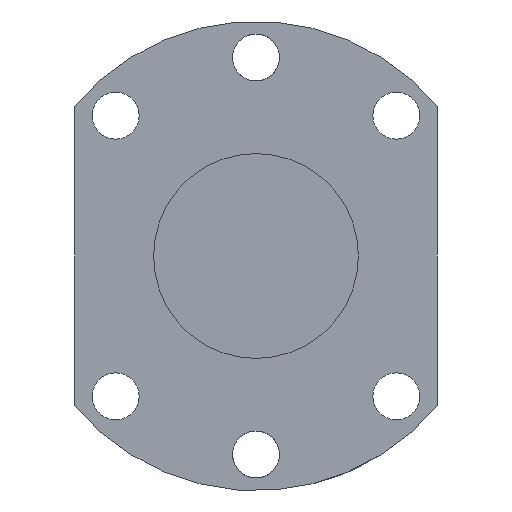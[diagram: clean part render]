
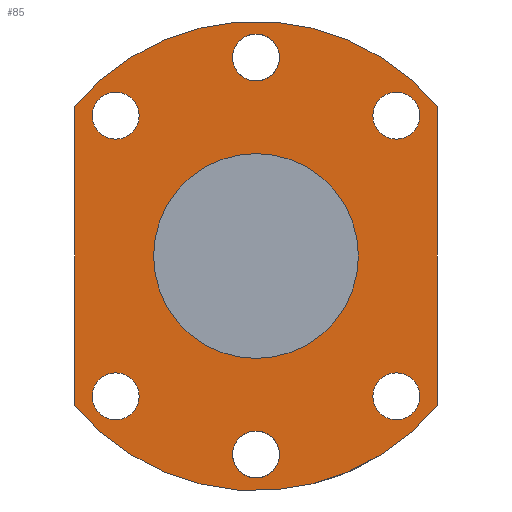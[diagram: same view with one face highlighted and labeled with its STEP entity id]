
A CAD part, front view. The second image highlights one B-rep face of the part: STEP entity #85.
In plain terms, the highlighted planar face has unit normal (0, -1, 0).
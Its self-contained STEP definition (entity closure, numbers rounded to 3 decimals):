
#30=LINE('',#556,#38);
#34=LINE('',#627,#42);
#38=VECTOR('',#451,1.);
#42=VECTOR('',#463,1.);
#69=PLANE('',#412);
#85=ADVANCED_FACE('',(#127,#128,#129,#130,#131,#132,#133,#134),#69,.F.);
#127=FACE_BOUND('',#181,.T.);
#128=FACE_BOUND('',#182,.T.);
#129=FACE_BOUND('',#183,.T.);
#130=FACE_BOUND('',#184,.T.);
#131=FACE_BOUND('',#185,.T.);
#132=FACE_BOUND('',#186,.T.);
#133=FACE_BOUND('',#187,.T.);
#134=FACE_BOUND('',#188,.T.);
#181=EDGE_LOOP('',(#250));
#182=EDGE_LOOP('',(#251));
#183=EDGE_LOOP('',(#252));
#184=EDGE_LOOP('',(#253));
#185=EDGE_LOOP('',(#254));
#186=EDGE_LOOP('',(#255));
#187=EDGE_LOOP('',(#256,#257,#258,#259));
#188=EDGE_LOOP('',(#260));
#250=ORIENTED_EDGE('',*,*,#344,.F.);
#251=ORIENTED_EDGE('',*,*,#345,.F.);
#252=ORIENTED_EDGE('',*,*,#346,.F.);
#253=ORIENTED_EDGE('',*,*,#347,.T.);
#254=ORIENTED_EDGE('',*,*,#348,.T.);
#255=ORIENTED_EDGE('',*,*,#349,.T.);
#256=ORIENTED_EDGE('',*,*,#321,.F.);
#257=ORIENTED_EDGE('',*,*,#332,.F.);
#258=ORIENTED_EDGE('',*,*,#329,.F.);
#259=ORIENTED_EDGE('',*,*,#325,.F.);
#260=ORIENTED_EDGE('',*,*,#335,.F.);
#289=VERTEX_POINT('',#548);
#290=VERTEX_POINT('',#549);
#293=VERTEX_POINT('',#557);
#296=VERTEX_POINT('',#622);
#299=VERTEX_POINT('',#690);
#308=VERTEX_POINT('',#710);
#309=VERTEX_POINT('',#712);
#310=VERTEX_POINT('',#714);
#311=VERTEX_POINT('',#716);
#312=VERTEX_POINT('',#718);
#313=VERTEX_POINT('',#720);
#321=EDGE_CURVE('',#289,#290,#357,.T.);
#325=EDGE_CURVE('',#290,#293,#30,.T.);
#329=EDGE_CURVE('',#293,#296,#359,.T.);
#332=EDGE_CURVE('',#296,#289,#34,.T.);
#335=EDGE_CURVE('',#299,#299,#361,.T.);
#344=EDGE_CURVE('',#308,#308,#370,.T.);
#345=EDGE_CURVE('',#309,#309,#371,.T.);
#346=EDGE_CURVE('',#310,#310,#372,.T.);
#347=EDGE_CURVE('',#311,#311,#373,.T.);
#348=EDGE_CURVE('',#312,#312,#374,.T.);
#349=EDGE_CURVE('',#313,#313,#375,.T.);
#357=CIRCLE('',#387,55.);
#359=CIRCLE('',#391,55.);
#361=CIRCLE('',#395,24.);
#370=CIRCLE('',#406,5.5);
#371=CIRCLE('',#407,5.5);
#372=CIRCLE('',#408,5.5);
#373=CIRCLE('',#409,5.5);
#374=CIRCLE('',#410,5.5);
#375=CIRCLE('',#411,5.5);
#387=AXIS2_PLACEMENT_3D('',#547,#443,#444);
#391=AXIS2_PLACEMENT_3D('',#621,#456,#457);
#395=AXIS2_PLACEMENT_3D('',#689,#467,#468);
#406=AXIS2_PLACEMENT_3D('',#709,#489,#490);
#407=AXIS2_PLACEMENT_3D('',#711,#491,#492);
#408=AXIS2_PLACEMENT_3D('',#713,#493,#494);
#409=AXIS2_PLACEMENT_3D('',#715,#495,#496);
#410=AXIS2_PLACEMENT_3D('',#717,#497,#498);
#411=AXIS2_PLACEMENT_3D('',#719,#499,#500);
#412=AXIS2_PLACEMENT_3D('',#721,#501,#502);
#443=DIRECTION('',(0.,1.,0.));
#444=DIRECTION('',(1.,0.,0.));
#451=DIRECTION('',(0.,0.,-1.));
#456=DIRECTION('',(0.,1.,0.));
#457=DIRECTION('',(1.,0.,0.));
#463=DIRECTION('',(0.,0.,1.));
#467=DIRECTION('',(0.,-1.,0.));
#468=DIRECTION('',(1.,0.,0.));
#489=DIRECTION('',(0.,-1.,0.));
#490=DIRECTION('',(-1.,0.,0.));
#491=DIRECTION('',(0.,-1.,0.));
#492=DIRECTION('',(-0.707,0.,-0.707));
#493=DIRECTION('',(0.,-1.,0.));
#494=DIRECTION('',(0.,0.,-1.));
#495=DIRECTION('',(0.,1.,0.));
#496=DIRECTION('',(-1.,0.,0.));
#497=DIRECTION('',(0.,1.,0.));
#498=DIRECTION('',(-0.707,0.,0.707));
#499=DIRECTION('',(0.,1.,0.));
#500=DIRECTION('',(0.,0.,1.));
#501=DIRECTION('',(0.,1.,0.));
#502=DIRECTION('',(0.,0.,1.));
#547=CARTESIAN_POINT('',(0.,-37.5,0.));
#548=CARTESIAN_POINT('',(-42.5,-37.5,34.911));
#549=CARTESIAN_POINT('',(42.5,-37.5,34.911));
#556=CARTESIAN_POINT('',(42.5,-37.5,34.911));
#557=CARTESIAN_POINT('',(42.5,-37.5,-34.911));
#621=CARTESIAN_POINT('',(0.,-37.5,0.));
#622=CARTESIAN_POINT('',(-42.5,-37.5,-34.911));
#627=CARTESIAN_POINT('',(-42.5,-37.5,-34.911));
#689=CARTESIAN_POINT('',(0.,-37.5,0.));
#690=CARTESIAN_POINT('',(24.,-37.5,0.));
#709=CARTESIAN_POINT('',(32.88,-37.5,32.88));
#710=CARTESIAN_POINT('',(27.38,-37.5,32.88));
#711=CARTESIAN_POINT('',(0.,-37.5,46.5));
#712=CARTESIAN_POINT('',(-3.889,-37.5,42.611));
#713=CARTESIAN_POINT('',(-32.88,-37.5,32.88));
#714=CARTESIAN_POINT('',(-32.88,-37.5,27.38));
#715=CARTESIAN_POINT('',(32.88,-37.5,-32.88));
#716=CARTESIAN_POINT('',(27.38,-37.5,-32.88));
#717=CARTESIAN_POINT('',(0.,-37.5,-46.5));
#718=CARTESIAN_POINT('',(-3.889,-37.5,-42.611));
#719=CARTESIAN_POINT('',(-32.88,-37.5,-32.88));
#720=CARTESIAN_POINT('',(-32.88,-37.5,-27.38));
#721=CARTESIAN_POINT('',(0.,-37.5,0.));
